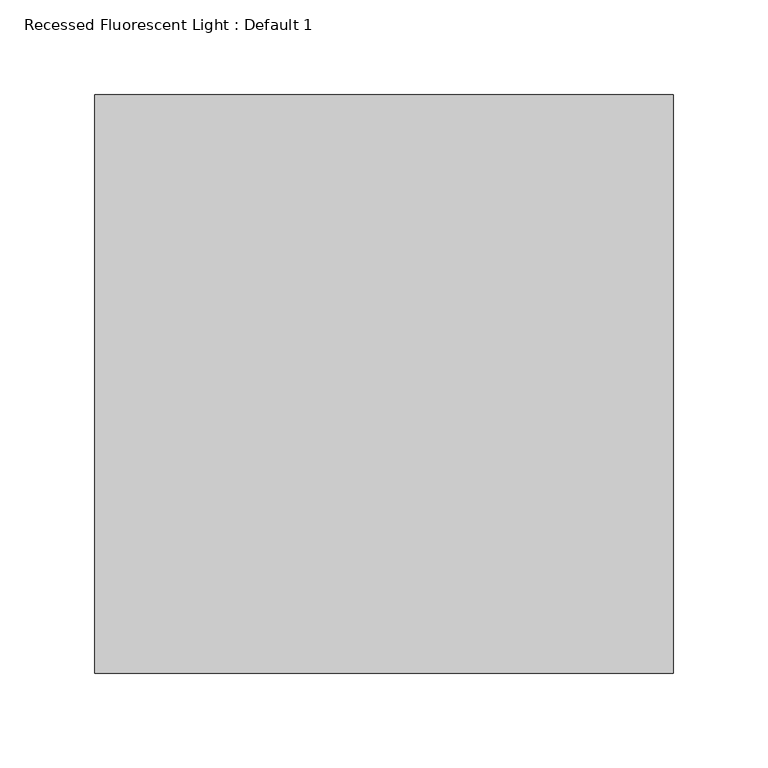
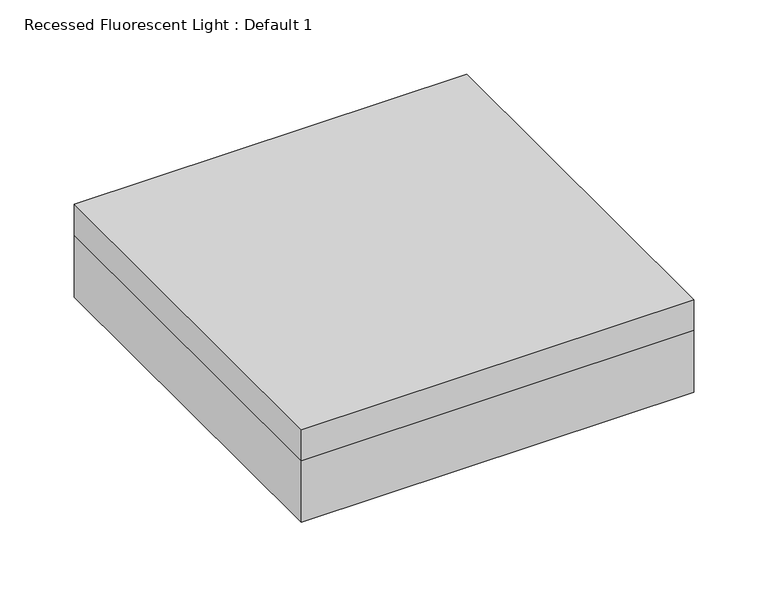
"""IFC4 building model written with IfcOpenShell, lengths in millimetres: light fixture geometry, Recessed Fluorescent Light : Default 1."""

from ifc_helpers import new_model, si_unit, frame, origin, place, context, project, spatial, polyline, outline, extrude, source, transform, mapped, element, save


def recessed_fluorescent_light_default_1_84da4e18(model_context):
    return source(origin(), model_context, "Body", "SweptSolid", [
        extrude(outline(polyline([(152.4, -152.4), (-152.4, -152.4), (-152.4, 152.4), (152.4, 152.4), (152.4, -152.4)])), frame((0.0, 0.0, 2489.2), z_axis=(0.0, 0.0, 1.0), x_axis=(1.0, 0.0, 0.0)), (0.0, 0.0, 1.0), 25.4),
        extrude(outline(polyline([(-152.4, 152.4), (152.4, 152.4), (152.4, 0.0), (152.4, -152.4), (-152.4, -152.4), (-152.4, 152.4)]), holes=[polyline([(127.0, -127.0), (127.0, 0.0), (127.0, 127.0), (-127.0, 127.0), (-127.0, -127.0), (127.0, -127.0)])]), frame((0.0, 0.0, 2438.4), z_axis=(0.0, 0.0, 1.0), x_axis=(1.0, 0.0, 0.0)), (0.0, 0.0, 1.0), 50.8),
    ])


if __name__ == "__main__":
    model = new_model("IFC4")
    model_context = context("Model", 3, world=origin())
    ifc_project = project(units=[si_unit("LENGTHUNIT", "METRE", prefix="MILLI")], contexts=[model_context])
    site = spatial("IfcSite", under=ifc_project)
    building = spatial("IfcBuilding", under=site)
    placement = place(None, origin())
    recessed_fluorescent_light_default_1_shape = recessed_fluorescent_light_default_1_84da4e18(model_context)
    element("IfcLightFixture", 1, ObjectType="Recessed Fluorescent Light : Default 1", at=placement, inside=building, context=model_context, shape_type="MappedRepresentation", body=[
        mapped(recessed_fluorescent_light_default_1_shape, transform((0.0, 0.0, 0.0), x_axis=(1.0, 0.0, 0.0), y_axis=(0.0, 1.0, 0.0), z_axis=(0.0, 0.0, 1.0))),
    ])
    save(model, "model.ifc")
